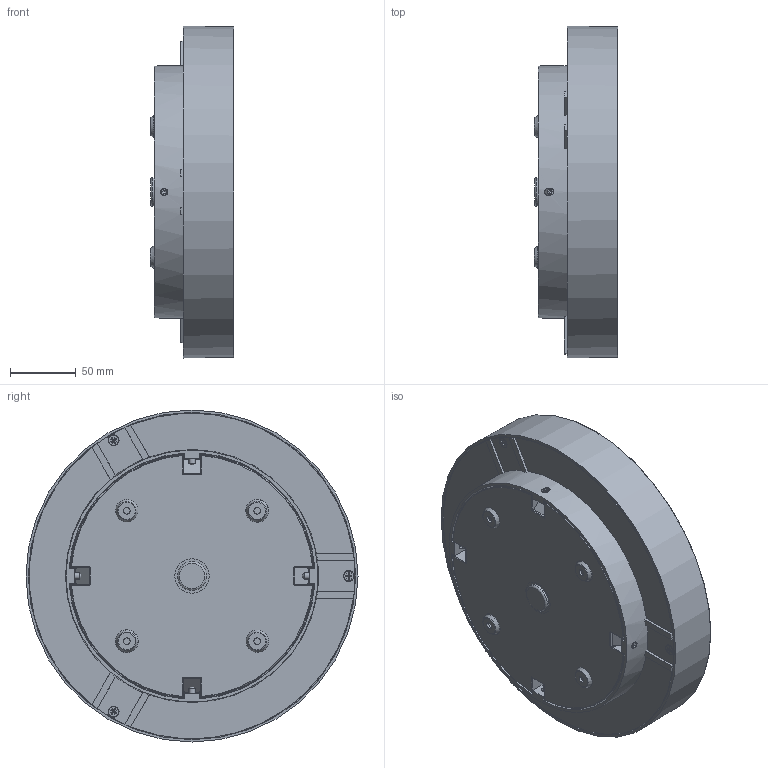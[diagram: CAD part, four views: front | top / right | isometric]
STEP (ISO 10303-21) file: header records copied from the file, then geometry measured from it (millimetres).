
FILE_DESCRIPTION (( 'STEP AP214' ), '1' );
FILE_NAME ('KUMA-P2082171.STEP', '2026-01-14T10:08:29', ( '' ), ( '' ), 'SwSTEP 2.0', 'SolidWorks 2025', '' );
FILE_SCHEMA (( 'AUTOMOTIVE_DESIGN' ));
Length unit declared in the file: millimetre
Products named in the file (1): KUMA-P2082171
Bounding box: 63.5 x 251.98 x 251.98 mm (x, y, z)
Volume: 559002.1 mm3; surface area: 429779 mm2
Topology: 12 solids, 12 shells, 572 faces, 1439 edges, 930 vertices
Faces by surface type: plane 312, cone 110, cylinder 87, torus 35, bspline 17, sphere 11
Full cylindrical faces by diameter (mm): 2.2 x1, 3.2 x10, 3.241 x3, 3.545 x3, 4.915 x4, 5 x6, 5.2 x4, 6 x3, 7.5 x4, 8.2 x3, 18 x2, 21 x1, 22 x1, 26 x1
Entity records: 17689 total; most frequent: CARTESIAN_POINT 4911, ORIENTED_EDGE 2538, DIRECTION 2488, EDGE_CURVE 1269, AXIS2_PLACEMENT_3D 942, VERTEX_POINT 875, EDGE_LOOP 762, FACE_OUTER_BOUND 637
